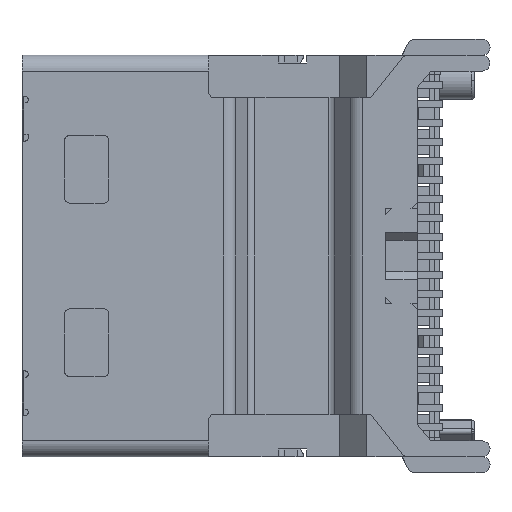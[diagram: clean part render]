
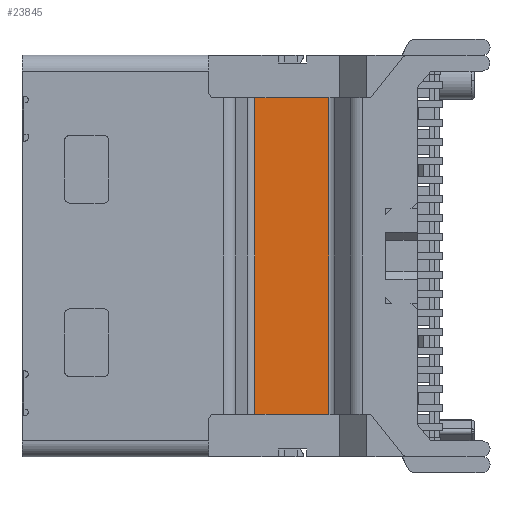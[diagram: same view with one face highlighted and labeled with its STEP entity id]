
A CAD part, left-side view. The second image highlights one B-rep face of the part: STEP entity #23845.
In plain terms, the highlighted planar face has unit normal (-1, 0, 0).
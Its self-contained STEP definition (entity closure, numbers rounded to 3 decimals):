
#3505=DIRECTION('',(0.,0.,1.));
#3506=VECTOR('',#3505,10.);
#3507=CARTESIAN_POINT('',(-1.83,4.599,-11.35));
#3508=LINE('',#3507,#3506);
#3513=DIRECTION('',(0.,-1.,0.));
#3514=VECTOR('',#3513,2.337);
#3515=CARTESIAN_POINT('',(-1.83,6.936,-1.35));
#3516=LINE('',#3515,#3514);
#3517=DIRECTION('',(0.,1.,0.));
#3518=VECTOR('',#3517,2.337);
#3519=CARTESIAN_POINT('',(-1.83,4.599,-11.35));
#3520=LINE('',#3519,#3518);
#3521=DIRECTION('',(0.,0.,-1.));
#3522=VECTOR('',#3521,10.);
#3523=CARTESIAN_POINT('',(-1.83,6.936,-1.35));
#3524=LINE('',#3523,#3522);
#15559=CARTESIAN_POINT('',(-1.83,6.936,-11.35));
#15560=VERTEX_POINT('',#15559);
#15561=CARTESIAN_POINT('',(-1.83,4.599,-11.35));
#15562=VERTEX_POINT('',#15561);
#15589=CARTESIAN_POINT('',(-1.83,4.599,-1.35));
#15590=VERTEX_POINT('',#15589);
#15591=CARTESIAN_POINT('',(-1.83,6.936,-1.35));
#15592=VERTEX_POINT('',#15591);
#23833=CARTESIAN_POINT('',(-1.83,13.488,-18.1));
#23834=DIRECTION('',(-1.,0.,0.));
#23835=DIRECTION('',(0.,-1.,0.));
#23836=AXIS2_PLACEMENT_3D('',#23833,#23834,#23835);
#23837=PLANE('',#23836);
#23839=ORIENTED_EDGE('',*,*,#23838,.F.);
#23840=ORIENTED_EDGE('',*,*,#23585,.T.);
#23841=ORIENTED_EDGE('',*,*,#23819,.F.);
#23842=ORIENTED_EDGE('',*,*,#20386,.T.);
#23843=EDGE_LOOP('',(#23839,#23840,#23841,#23842));
#23844=FACE_OUTER_BOUND('',#23843,.F.);
#20386=EDGE_CURVE('',#15562,#15560,#3520,.T.);
#23585=EDGE_CURVE('',#15592,#15590,#3516,.T.);
#23819=EDGE_CURVE('',#15562,#15590,#3508,.T.);
#23838=EDGE_CURVE('',#15592,#15560,#3524,.T.);
#23845=ADVANCED_FACE('',(#23844),#23837,.T.);
